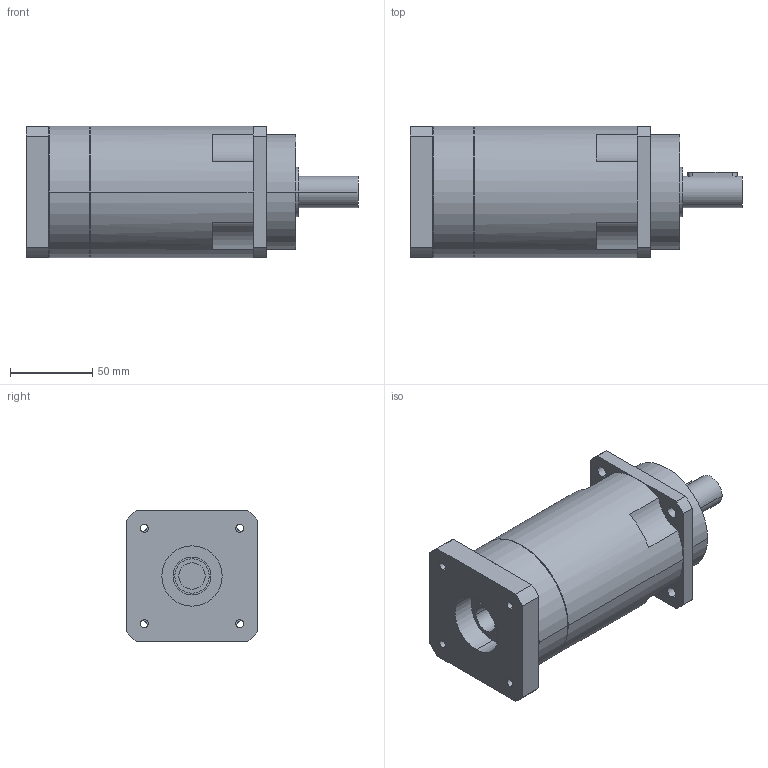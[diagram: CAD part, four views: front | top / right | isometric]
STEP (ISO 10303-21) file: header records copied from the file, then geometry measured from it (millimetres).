
FILE_DESCRIPTION(('CoCreate Modeling STEP Export'),'2;1');
FILE_NAME('GPR100_ig-48-64-80-100-120-144-180-216_19_B5_16_P27.stp','2014-08-26T11:55:53',(''),(''),'CoCreate Modeling STEP processor for AP214 (Solid Model)','CoCreate Modeling 16.00C 25-Feb-2009 (C) Parametric Technology GmbH','');
FILE_SCHEMA(('AUTOMOTIVE_DESIGN { 1 0 10303 214 1 1 1 1 }'));
Length unit declared in the file: millimetre
Products named in the file (2): GPR100_ig-48-64-80-100-120-144-180-216_19_B5_16_P27
Assembly tree (1 placements, depth 2):
  GPR100_ig-48-64-80-100-120-144-180-216_19_B5_16_P27
    GPR100_ig-48-64-80-100-120-144-180-216_19_B5_16_P27
Bounding box: 202.4 x 80 x 80 mm (x, y, z)
Volume: 814810.1 mm3; surface area: 65927.7 mm2
Topology: 1 solids, 1 shells, 90 faces, 262 edges, 178 vertices
Faces by surface type: cylinder 50, plane 34, cone 6
Entity records: 2785 total; most frequent: CARTESIAN_POINT 586, ORIENTED_EDGE 520, DIRECTION 386, EDGE_CURVE 260, VERTEX_POINT 178, AXIS2_PLACEMENT_3D 146, EDGE_LOOP 112, VECTOR 94
